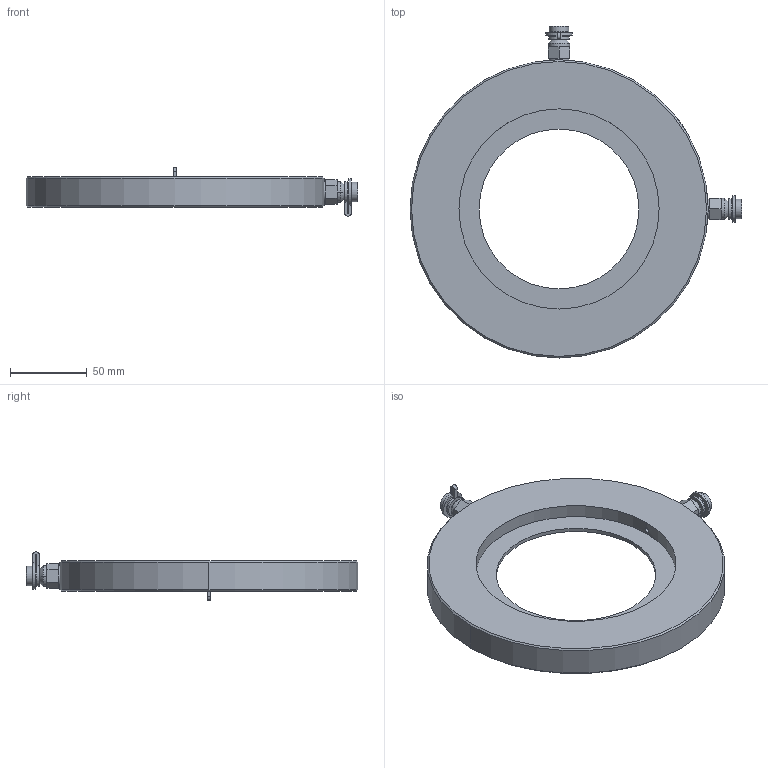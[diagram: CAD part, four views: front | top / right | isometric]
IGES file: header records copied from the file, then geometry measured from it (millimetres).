
Global section: file name: No Iges File Name specified; native system: AutoDesk Inventor R12.0; preprocessor: AutoDesk Inventor Iges Exporter R12.0; date: 20110308.094416; units: millimetre
Bounding box: 216.1 x 216.1 x 31.45 mm (x, y, z)
Volume: 342381.1 mm3; surface area: 65174.1 mm2
Topology: 1 solids, 1 shells, 131 faces, 314 edges, 202 vertices
Faces by surface type: plane 72, cylinder 27, cone 16, revolution 14, bspline 2
